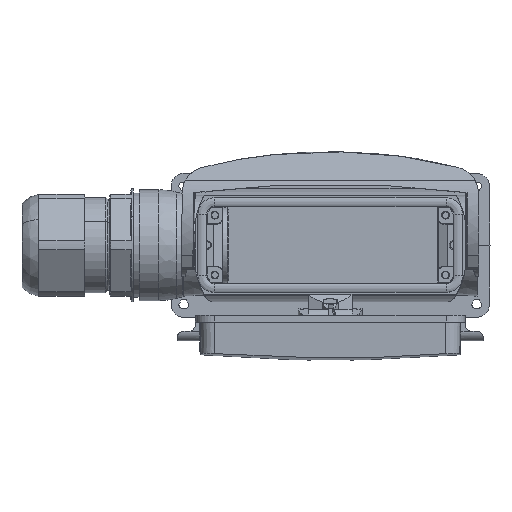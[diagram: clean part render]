
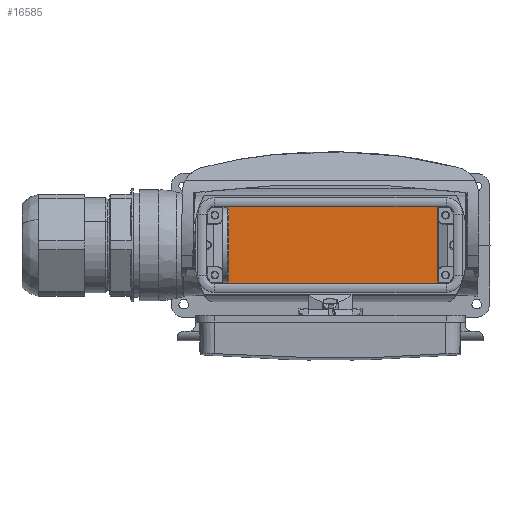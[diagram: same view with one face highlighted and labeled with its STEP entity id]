
A CAD part, top view. The second image highlights one B-rep face of the part: STEP entity #16585.
In plain terms, the highlighted planar face has unit normal (0, 0, 1).
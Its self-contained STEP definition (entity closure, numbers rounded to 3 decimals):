
#10876=PLANE('',#34457);
#11852=LINE('',#44833,#14384);
#11853=LINE('',#44836,#14385);
#11854=LINE('',#44838,#14386);
#11855=LINE('',#44840,#14387);
#14384=VECTOR('',#37290,1.);
#14385=VECTOR('',#37291,1.);
#14386=VECTOR('',#37292,1.);
#14387=VECTOR('',#37293,1.);
#16585=ADVANCED_FACE('',(#17504),#10876,.F.);
#17504=FACE_OUTER_BOUND('',#18385,.T.);
#18385=EDGE_LOOP('',(#20684,#20685,#20686,#20687));
#20684=ORIENTED_EDGE('',*,*,#28891,.F.);
#20685=ORIENTED_EDGE('',*,*,#28892,.T.);
#20686=ORIENTED_EDGE('',*,*,#28893,.F.);
#20687=ORIENTED_EDGE('',*,*,#28894,.T.);
#25152=VERTEX_POINT('',#44834);
#25153=VERTEX_POINT('',#44835);
#25154=VERTEX_POINT('',#44837);
#25155=VERTEX_POINT('',#44839);
#28891=EDGE_CURVE('',#25152,#25153,#11852,.T.);
#28892=EDGE_CURVE('',#25152,#25154,#11853,.T.);
#28893=EDGE_CURVE('',#25155,#25154,#11854,.T.);
#28894=EDGE_CURVE('',#25155,#25153,#11855,.T.);
#34457=AXIS2_PLACEMENT_3D('',#44841,#37294,#37295);
#37290=DIRECTION('',(0.,-1.,0.));
#37291=DIRECTION('',(-1.,0.,0.));
#37292=DIRECTION('',(0.,1.,0.));
#37293=DIRECTION('',(1.,0.,0.));
#37294=DIRECTION('',(0.,0.,-1.));
#37295=DIRECTION('',(-1.,0.,0.));
#44833=CARTESIAN_POINT('',(48.488,0.,-70.2));
#44834=CARTESIAN_POINT('',(48.488,17.425,-70.2));
#44835=CARTESIAN_POINT('',(48.488,-17.425,-70.2));
#44836=CARTESIAN_POINT('',(0.,17.425,-70.2));
#44837=CARTESIAN_POINT('',(-48.488,17.425,-70.2));
#44838=CARTESIAN_POINT('',(-48.488,-13.649,-70.2));
#44839=CARTESIAN_POINT('',(-48.488,-17.425,-70.2));
#44840=CARTESIAN_POINT('',(0.,-17.425,-70.2));
#44841=CARTESIAN_POINT('',(0.,0.,-70.2));
